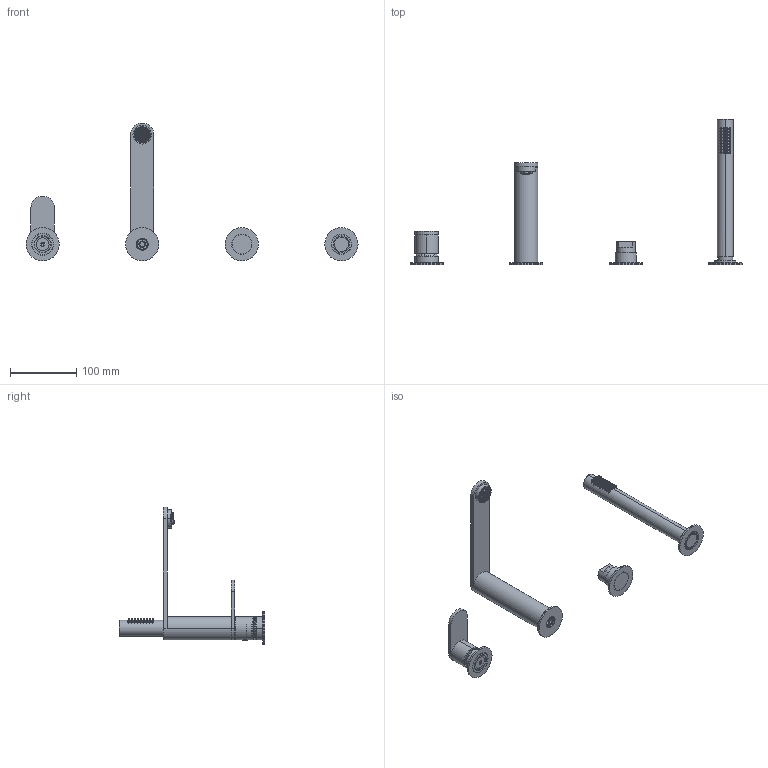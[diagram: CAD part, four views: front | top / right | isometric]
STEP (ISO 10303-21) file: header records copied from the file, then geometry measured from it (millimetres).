
FILE_DESCRIPTION((''),'2;1');
FILE_NAME('7902921_SW0001','2026-10-05T13:58:40',('carloff'),(''),'CREO PARAMETRIC BY PTC INC, 2025443','CREO PARAMETRIC BY PTC INC, 2025443','');
FILE_SCHEMA(('CONFIG_CONTROL_DESIGN'));
Length unit declared in the file: millimetre
Products named in the file (1): 7902921_SW0001
Bounding box: 500 x 219 x 207.5 mm (x, y, z)
Volume: 251214.8 mm3; surface area: 125186.9 mm2
Topology: 8 solids, 8 shells, 5195 faces, 12939 edges, 8235 vertices
Faces by surface type: plane 3485, cylinder 917, cone 474, torus 220, sphere 71, bspline 28
Entity records: 186461 total; most frequent: CARTESIAN_POINT 73521, ORIENTED_EDGE 25758, DIRECTION 19053, EDGE_CURVE 12879, VERTEX_POINT 8235, AXIS2_PLACEMENT_3D 6851, B_SPLINE_CURVE_WITH_KNOTS 5844, EDGE_LOOP 5752
